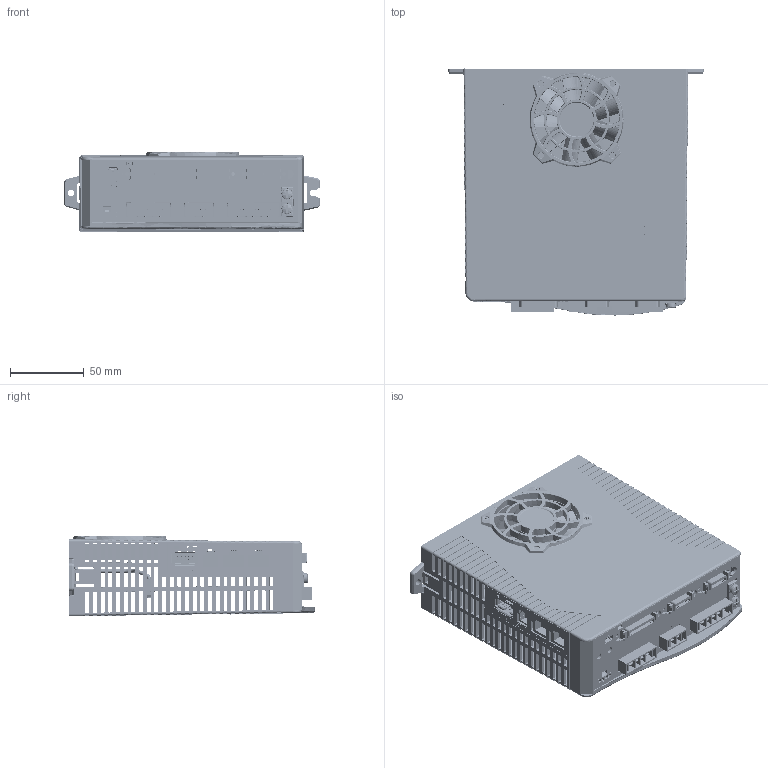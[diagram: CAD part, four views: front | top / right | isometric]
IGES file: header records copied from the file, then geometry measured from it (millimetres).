
Start section: SolidWorks IGES file using analytic representation for surfaces
Global section: file name: H:\ANaivelt\Roni\CDHD Catalog\CDHD_200V\CDHD 6A\CDHD-4D5 CDHD-006_cat.IGS; native system: SolidWorks 2009; preprocessor: SolidWorks 2009; author: Alexander.Naivelt; date: 140512.094754; units: millimetre
Bounding box: 173.34 x 167.45 x 54.72 mm (x, y, z)
Surface area: 219126.3 mm2 (no closed solid volume)
Topology: 0 solids, 0 shells, 8682 faces, 70446 edges, 70409 vertices
Faces by surface type: bspline 6660, revolution 2022
